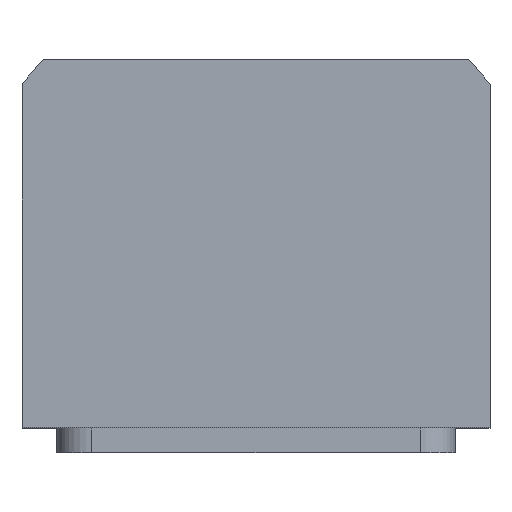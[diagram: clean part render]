
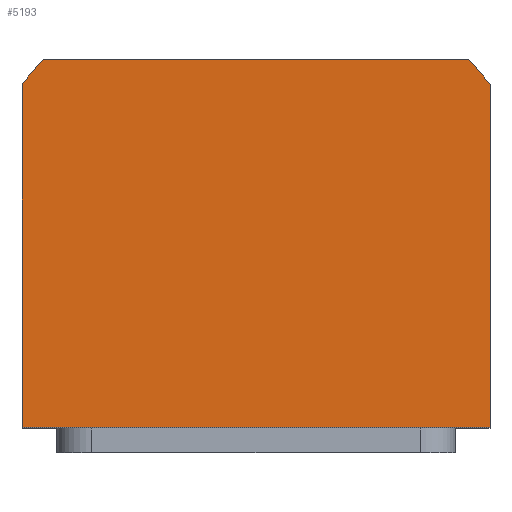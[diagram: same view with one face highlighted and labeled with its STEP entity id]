
A CAD part, top view. The second image highlights one B-rep face of the part: STEP entity #5193.
In plain terms, the highlighted planar face has unit normal (0, 0, 1).
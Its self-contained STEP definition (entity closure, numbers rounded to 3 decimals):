
#2542=PLANE('',#11262);
#2858=FACE_OUTER_BOUND('',#5984,.T.);
#3226=LINE('',#15977,#4092);
#3257=LINE('',#16651,#4123);
#3278=LINE('',#16719,#4144);
#3288=LINE('',#16746,#4154);
#4092=VECTOR('',#11761,1.);
#4123=VECTOR('',#11876,1.);
#4144=VECTOR('',#11927,1.);
#4154=VECTOR('',#11951,1.);
#5193=ADVANCED_FACE('',(#2858),#2542,.T.);
#5645=CIRCLE('',#11240,58.5);
#5651=CIRCLE('',#11252,58.5);
#5984=EDGE_LOOP('',(#6757,#6758,#6759,#6760,#6761,#6762));
#6757=ORIENTED_EDGE('',*,*,#9819,.T.);
#6758=ORIENTED_EDGE('',*,*,#9849,.T.);
#6759=ORIENTED_EDGE('',*,*,#9852,.T.);
#6760=ORIENTED_EDGE('',*,*,#9864,.T.);
#6761=ORIENTED_EDGE('',*,*,#9826,.T.);
#6762=ORIENTED_EDGE('',*,*,#9724,.T.);
#8876=VERTEX_POINT('',#15976);
#8877=VERTEX_POINT('',#15978);
#8963=VERTEX_POINT('',#16650);
#8968=VERTEX_POINT('',#16663);
#8985=VERTEX_POINT('',#16718);
#8987=VERTEX_POINT('',#16724);
#9724=EDGE_CURVE('',#8877,#8876,#3226,.T.);
#9819=EDGE_CURVE('',#8876,#8963,#3257,.T.);
#9826=EDGE_CURVE('',#8968,#8877,#5645,.T.);
#9849=EDGE_CURVE('',#8963,#8985,#3278,.T.);
#9852=EDGE_CURVE('',#8985,#8987,#5651,.T.);
#9864=EDGE_CURVE('',#8987,#8968,#3288,.T.);
#11240=AXIS2_PLACEMENT_3D('',#16666,#11890,#11891);
#11252=AXIS2_PLACEMENT_3D('',#16725,#11933,#11934);
#11262=AXIS2_PLACEMENT_3D('',#16756,#11964,#11965);
#11761=DIRECTION('',(0.,-1.,0.));
#11876=DIRECTION('',(1.,0.,0.));
#11890=DIRECTION('',(0.,0.,1.));
#11891=DIRECTION('',(1.,0.,0.));
#11927=DIRECTION('',(0.,1.,0.));
#11933=DIRECTION('',(0.,0.,1.));
#11934=DIRECTION('',(1.,0.,0.));
#11951=DIRECTION('',(-1.,0.,0.));
#11964=DIRECTION('',(0.,0.,1.));
#11965=DIRECTION('',(-1.,0.,0.));
#15976=CARTESIAN_POINT('',(-47.,-34.,55.));
#15977=CARTESIAN_POINT('',(-47.,-34.,55.));
#15978=CARTESIAN_POINT('',(-47.,34.832,55.));
#16650=CARTESIAN_POINT('',(47.,-34.,55.));
#16651=CARTESIAN_POINT('',(47.,-34.,55.));
#16663=CARTESIAN_POINT('',(-42.688,40.,55.));
#16666=CARTESIAN_POINT('',(0.,0.,55.));
#16718=CARTESIAN_POINT('',(47.,34.832,55.));
#16719=CARTESIAN_POINT('',(47.,34.832,55.));
#16724=CARTESIAN_POINT('',(42.688,40.,55.));
#16725=CARTESIAN_POINT('',(0.,0.,55.));
#16746=CARTESIAN_POINT('',(-42.688,40.,55.));
#16756=CARTESIAN_POINT('',(0.,0.,55.));
